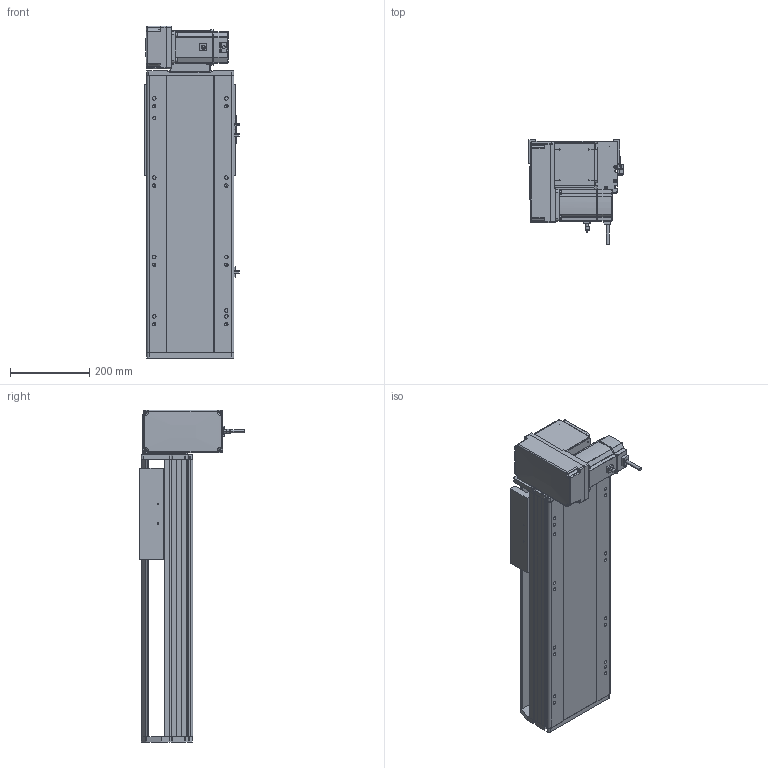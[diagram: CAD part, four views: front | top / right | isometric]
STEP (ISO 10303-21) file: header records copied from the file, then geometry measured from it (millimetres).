
FILE_DESCRIPTION (( 'STEP AP214' ), '1' );
FILE_NAME ('RTB22S-XX-350-LM-M75-C4.STEP', '2025-12-12T03:46:06', ( '' ), ( '' ), 'SwSTEP 2.0', 'SolidWorks 2018', '' );
FILE_SCHEMA (( 'AUTOMOTIVE_DESIGN' ));
Length unit declared in the file: millimetre
Products named in the file (14): RTB22S-GY-001耜裔^RTB22S-XX-XX-LM-M75-C4; RTB22S-L-011菁釱^RTB22S-XX-XX-LM-M75-C4; RTH22-GY-013外置感应片^RTB22S-XX-XX-LM-M75-C4; RTB22S-GY-008-M75--萇儂啣^RMP22S-LM-々湍釱蚾饜_RTB22S-XX-XX-LM-M75-C4; RMP22S-LM-々湍釱蚾饜^RTB22S-XX-XX-LM-M75-C4; RTB22S-GY-014--々湍釱^RMP22S-LM-々湍釱蚾饜_RTB22S-XX-XX-LM-M75-C4; RTB22S-GY-007奻裔^RTB22S-XX-XX-LM-M75-C4; RTB22S-GY-017P^RMP22S-LM-々湍釱蚾饜_RTB22S-XX-XX-LM-M75-C4; 750W萇儂^RTB22S-XX-XX-LM-M75-C4; RTB22S-L-004賑釱^RTB22S-XX-XX-LM-M75-C4; RTB22S-GY-018P^RMP22S-LM-々湍釱蚾饜_RTB22S-XX-XX-LM-M75-C4; RTB22S-XX-350-LM-M75-C4; OMRON EE-SX672 传感器^RTB22S-XX-XX-LM-M75-C4; RTB22S-GY-005P^RMP22S-LM-々湍釱蚾饜_RTB22S-XX-XX-LM-M75-C4
Assembly tree (16 placements, depth 3):
  RTB22S-XX-350-LM-M75-C4
    RTB22S-L-011菁釱^RTB22S-XX-XX-LM-M75-C4
    RTB22S-GY-001耜裔^RTB22S-XX-XX-LM-M75-C4
    750W萇儂^RTB22S-XX-XX-LM-M75-C4
    RTB22S-GY-007奻裔^RTB22S-XX-XX-LM-M75-C4
    RTB22S-L-004賑釱^RTB22S-XX-XX-LM-M75-C4
    RTH22-GY-013外置感应片^RTB22S-XX-XX-LM-M75-C4
    OMRON EE-SX672 传感器^RTB22S-XX-XX-LM-M75-C4  x3
    RMP22S-LM-々湍釱蚾饜^RTB22S-XX-XX-LM-M75-C4
      RTB22S-GY-014--々湍釱^RMP22S-LM-々湍釱蚾饜_RTB22S-XX-XX-LM-M75-C4
      RTB22S-GY-017P^RMP22S-LM-々湍釱蚾饜_RTB22S-XX-XX-LM-M75-C4  x2
      RTB22S-GY-005P^RMP22S-LM-々湍釱蚾饜_RTB22S-XX-XX-LM-M75-C4
      RTB22S-GY-008-M75--萇儂啣^RMP22S-LM-々湍釱蚾饜_RTB22S-XX-XX-LM-M75-C4
      RTB22S-GY-018P^RMP22S-LM-々湍釱蚾饜_RTB22S-XX-XX-LM-M75-C4
Bounding box: 238.5 x 264.7 x 837.5 mm (x, y, z)
Volume: 13718136.3 mm3; surface area: 1458624.6 mm2
Topology: 15 solids, 15 shells, 1911 faces, 5186 edges, 3332 vertices
Faces by surface type: plane 907, cylinder 574, bspline 296, cone 122, sphere 8, torus 4
Entity records: 50136 total; most frequent: CARTESIAN_POINT 14580, ORIENTED_EDGE 7192, DIRECTION 6850, EDGE_CURVE 3596, AXIS2_PLACEMENT_3D 2390, VERTEX_POINT 2336, VECTOR 2070, LINE 2070
